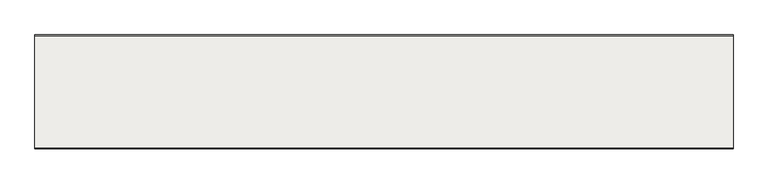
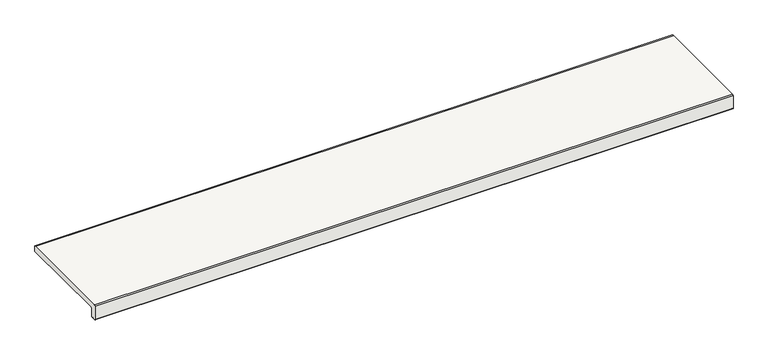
"""IFC4 building model written with IfcOpenShell, lengths in millimetres: slab geometry, ROSA GRES_L62 : Pieza L62_Tresor_Java_Anti-Slip."""

from ifc_helpers import new_model, si_unit, point, frame, frame_2d, origin, place, context, project, spatial, polyline, circle_curve, trimmed, segment, composite_curve, outline, extrude, source, transform, mapped, element, save


def slab_2d9b47c5(model_context):
    return source(origin(), model_context, "Body", "SweptSolid", [
        extrude(outline(composite_curve([segment(polyline([(12.1001991, -37.0), (9.4054777, -37.0)]), True, "CONTINUOUS"), segment(trimmed(circle_curve(frame_2d((7.4142134, -37.0)), 1.9912643), [point((9.4054777, -37.0))], [point((5.422949, -37.0))], True, "CARTESIAN"), True, "CONTINUOUS"), segment(polyline([(5.422949, -37.0), (2.5, -37.0)]), True, "CONTINUOUS"), segment(trimmed(circle_curve(frame_2d((2.5, -34.5)), 2.5), [point((2.5, -37.0))], [point((0.0, -34.5))], False, "CARTESIAN"), True, "CONTINUOUS"), segment(polyline([(0.0, -34.5), (0.0, -2.5), (2.5, 0.0), (247.5, 0.0), (250.0, -0.0899281), (250.0, -13.9413919), (16.6422322, -13.9413919)]), True, "CONTINUOUS"), segment(trimmed(circle_curve(frame_2d((16.6422322, -16.5836242)), 2.6422322), [point((16.6422322, -13.9413919))], [point((14.0, -16.5836242))], True, "CARTESIAN"), True, "CONTINUOUS"), segment(polyline([(14.0, -16.5836242), (14.0, -35.1001991)]), True, "CONTINUOUS"), segment(trimmed(circle_curve(frame_2d((12.1001991, -35.1001991)), 1.8998009), [point((14.0, -35.1001991))], [point((12.1001991, -37.0))], False, "CARTESIAN"), True, "CONTINUOUS")], self_intersect=False)), frame((0.0, 0.0, 0.0), z_axis=(1.0, 0.0, 0.0), x_axis=(0.0, 1.0, 0.0)), (0.0, 0.0, 1.0), 1530.9223432),
    ])


if __name__ == "__main__":
    model = new_model("IFC4")
    model_context = context("Model", 3, world=origin())
    ifc_project = project(units=[si_unit("LENGTHUNIT", "METRE", prefix="MILLI")], contexts=[model_context])
    site = spatial("IfcSite", under=ifc_project)
    building = spatial("IfcBuilding", under=site)
    placement = place(None, origin())
    slab_shape = slab_2d9b47c5(model_context)
    element("IfcSlab", 1, ObjectType="ROSA GRES_L62 : Pieza L62_Tresor_Java_Anti-Slip", at=placement, inside=building, context=model_context, shape_type="MappedRepresentation", body=[
        mapped(slab_shape, transform((0.0, 0.0, 0.0), x_axis=(1.0, 0.0, 0.0), y_axis=(0.0, 1.0, 0.0), z_axis=(0.0, 0.0, 1.0))),
    ])
    save(model, "model.ifc")
